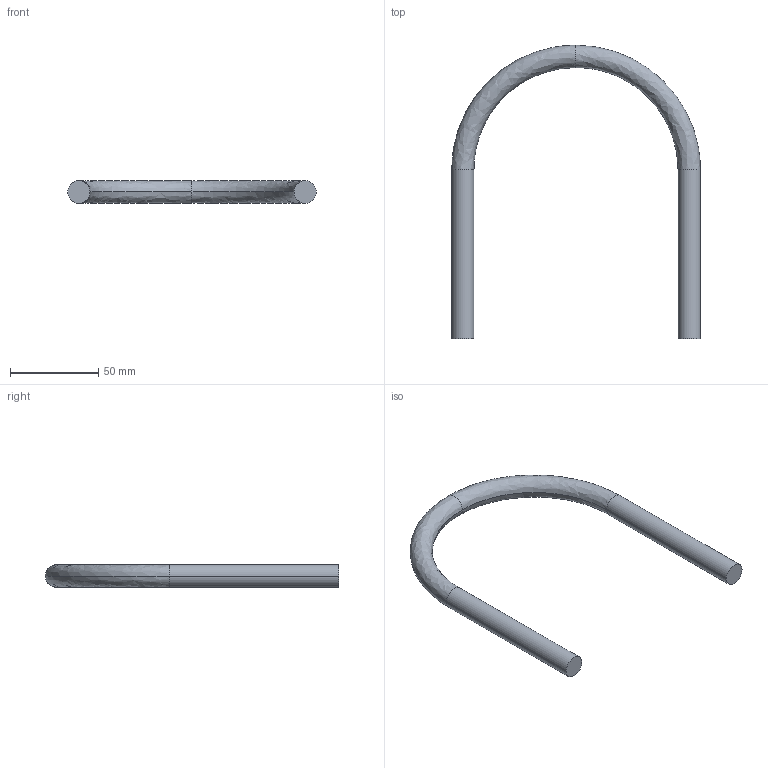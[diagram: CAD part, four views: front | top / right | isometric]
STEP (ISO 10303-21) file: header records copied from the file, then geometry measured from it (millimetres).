
FILE_DESCRIPTION(('TurboCAD Mac Pro'),'Build 980');
FILE_NAME('FUB-400.stp',' ',(''),(''),'ACIS Interop','IMSI','TurboCAD Mac Pro BY IMSI, INCORPORATED');
FILE_SCHEMA(('automotive_design'));
Length unit declared in the file: inch
Products named in the file (2): 1; 2
Bounding box: 141.27 x 166.67 x 12.7 mm (x, y, z)
Volume: 49876.2 mm3; surface area: 15969.7 mm2
Topology: 1 solids, 1 shells, 10 faces, 18 edges, 10 vertices
Faces by surface type: bspline 4, cylinder 4, plane 2
Entity records: 676 total; most frequent: CARTESIAN_POINT 330, DIRECTION 42, ORIENTED_EDGE 36, AXIS2_PLACEMENT_3D 18, EDGE_CURVE 18, STYLED_ITEM 15, PRESENTATION_STYLE_ASSIGNMENT 15, COLOUR_RGB 15
